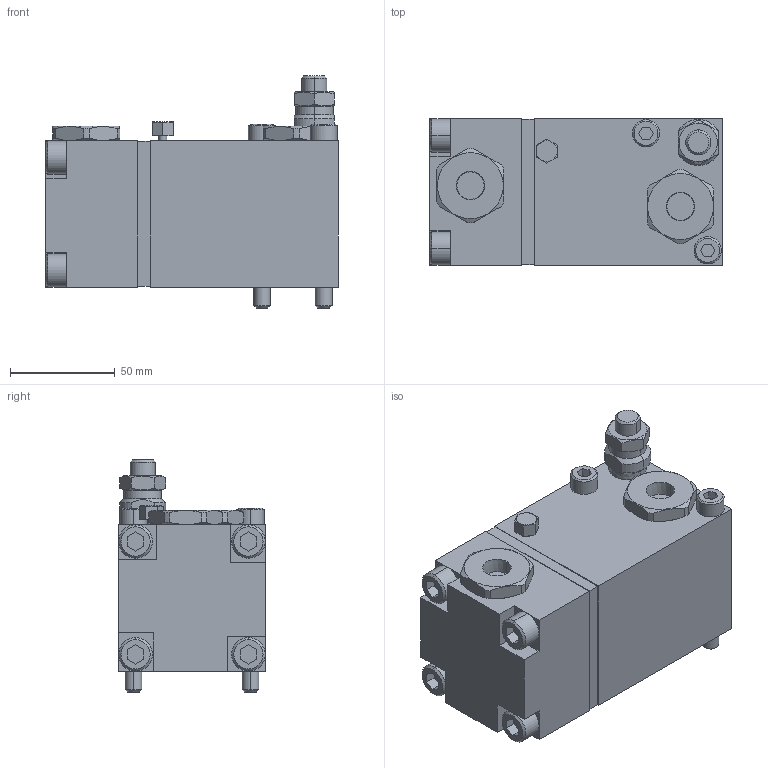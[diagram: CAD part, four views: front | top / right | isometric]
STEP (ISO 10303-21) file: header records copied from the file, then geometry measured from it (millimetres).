
FILE_DESCRIPTION (( 'STEP AP203' ), '1' );
FILE_NAME ('BU50x0-0.step', '2010-03-12T04:11:55', ( ' ' ), ( ' ' ), 'SwSTEP 2.0', 'SolidWorks 2009', '' );
FILE_SCHEMA (( 'CONFIG_CONTROL_DESIGN' ));
Length unit declared in the file: millimetre
Products named in the file (7): BU50x0-0.sldasm-Part-4; BU50x0-0.sldasm-Part-5; BU50x0-0.sldasm-Part-6; BU50x0-0.sldasm-Part-2; BU50x0-0.sldasm-Part-3; BU50x0-0; BU50x0-0.sldasm-Part-1
Assembly tree (7 placements, depth 2):
  BU50x0-0
    BU50x0-0.sldasm-Part-2
    BU50x0-0.sldasm-Part-6
    BU50x0-0.sldasm-Part-5  x2
    BU50x0-0.sldasm-Part-3
    BU50x0-0.sldasm-Part-1
    BU50x0-0.sldasm-Part-4
Bounding box: 140 x 70 x 111 mm (x, y, z)
Volume: 701648.7 mm3; surface area: 61615.6 mm2
Topology: 7 solids, 7 shells, 209 faces, 502 edges, 324 vertices
Faces by surface type: plane 119, cone 46, cylinder 44
Entity records: 6439 total; most frequent: CARTESIAN_POINT 1281, DIRECTION 922, ORIENTED_EDGE 896, EDGE_CURVE 448, AXIS2_PLACEMENT_3D 321, VERTEX_POINT 288, VECTOR 280, LINE 280
